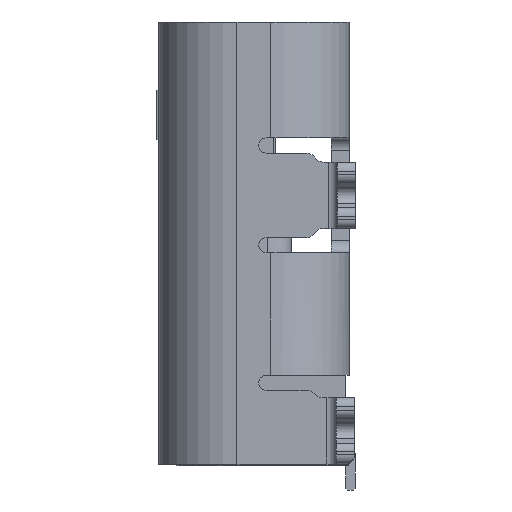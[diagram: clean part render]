
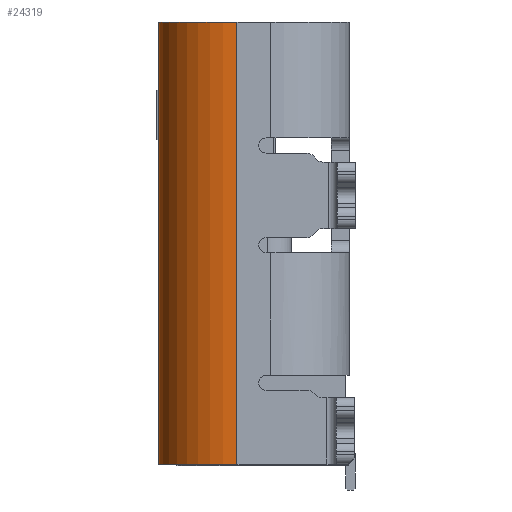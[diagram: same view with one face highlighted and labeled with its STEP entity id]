
A CAD part, left-side view. The second image highlights one B-rep face of the part: STEP entity #24319.
In plain terms, the highlighted cylindrical face has radius 1.3 mm (diameter 2.6 mm), a partial arc.
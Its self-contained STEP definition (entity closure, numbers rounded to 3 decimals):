
#300 = FACE_OUTER_BOUND ( 'NONE', #2237, .T. ) ;
#526 = LINE ( 'NONE', #17508, #26287 ) ;
#1230 = AXIS2_PLACEMENT_3D ( 'NONE', #11167, #2738, #25426 ) ;
#2237 = EDGE_LOOP ( 'NONE', ( #7610, #23771, #26208, #12305 ) ) ;
#2708 = VERTEX_POINT ( 'NONE', #6535 ) ;
#2738 = DIRECTION ( 'NONE',  ( 0., 0., 1. ) ) ;
#3269 = CIRCLE ( 'NONE', #7161, 1.3 ) ;
#3870 = DIRECTION ( 'NONE',  ( -1., 0., 0. ) ) ;
#5289 = DIRECTION ( 'NONE',  ( 0., 0., 1. ) ) ;
#5439 = LINE ( 'NONE', #13727, #7902 ) ;
#6535 = CARTESIAN_POINT ( 'NONE',  ( -12.691, 0.514, 26.561 ) ) ;
#6955 = EDGE_CURVE ( 'NONE', #14240, #17747, #19067, .T. ) ;
#7161 = AXIS2_PLACEMENT_3D ( 'NONE', #13804, #22474, #3870 ) ;
#7356 = AXIS2_PLACEMENT_3D ( 'NONE', #25648, #5289, #11681 ) ;
#7610 = ORIENTED_EDGE ( 'NONE', *, *, #20446, .T. ) ;
#7902 = VECTOR ( 'NONE', #26611, 1000. ) ;
#11167 = CARTESIAN_POINT ( 'NONE',  ( -12.691, -0.786, 26.561 ) ) ;
#11681 = DIRECTION ( 'NONE',  ( 0., 1., 0. ) ) ;
#11860 = EDGE_CURVE ( 'NONE', #25748, #2708, #3269, .T. ) ;
#12305 = ORIENTED_EDGE ( 'NONE', *, *, #11860, .T. ) ;
#13299 = DIRECTION ( 'NONE',  ( 0., 0., -1. ) ) ;
#13727 = CARTESIAN_POINT ( 'NONE',  ( -13.991, -0.786, 19.241 ) ) ;
#13804 = CARTESIAN_POINT ( 'NONE',  ( -12.691, -0.786, 26.561 ) ) ;
#14240 = VERTEX_POINT ( 'NONE', #24730 ) ;
#15576 = EDGE_CURVE ( 'NONE', #17747, #25748, #5439, .T. ) ;
#17092 = CARTESIAN_POINT ( 'NONE',  ( -13.991, -0.786, 19.241 ) ) ;
#17508 = CARTESIAN_POINT ( 'NONE',  ( -12.691, 0.514, 26.561 ) ) ;
#17747 = VERTEX_POINT ( 'NONE', #17092 ) ;
#19067 = CIRCLE ( 'NONE', #7356, 1.3 ) ;
#19178 = CYLINDRICAL_SURFACE ( 'NONE', #1230, 1.3 ) ;
#20446 = EDGE_CURVE ( 'NONE', #2708, #14240, #526, .T. ) ;
#21861 = CARTESIAN_POINT ( 'NONE',  ( -13.991, -0.786, 26.561 ) ) ;
#22474 = DIRECTION ( 'NONE',  ( 0., 0., -1. ) ) ;
#23771 = ORIENTED_EDGE ( 'NONE', *, *, #6955, .T. ) ;
#24319 = ADVANCED_FACE ( 'NONE', ( #300 ), #19178, .T. ) ;
#24730 = CARTESIAN_POINT ( 'NONE',  ( -12.691, 0.514, 19.241 ) ) ;
#25426 = DIRECTION ( 'NONE',  ( 1., 0., 0. ) ) ;
#25648 = CARTESIAN_POINT ( 'NONE',  ( -12.691, -0.786, 19.241 ) ) ;
#25748 = VERTEX_POINT ( 'NONE', #21861 ) ;
#26208 = ORIENTED_EDGE ( 'NONE', *, *, #15576, .T. ) ;
#26287 = VECTOR ( 'NONE', #13299, 1000. ) ;
#26611 = DIRECTION ( 'NONE',  ( 0., 0., 1. ) ) ;
